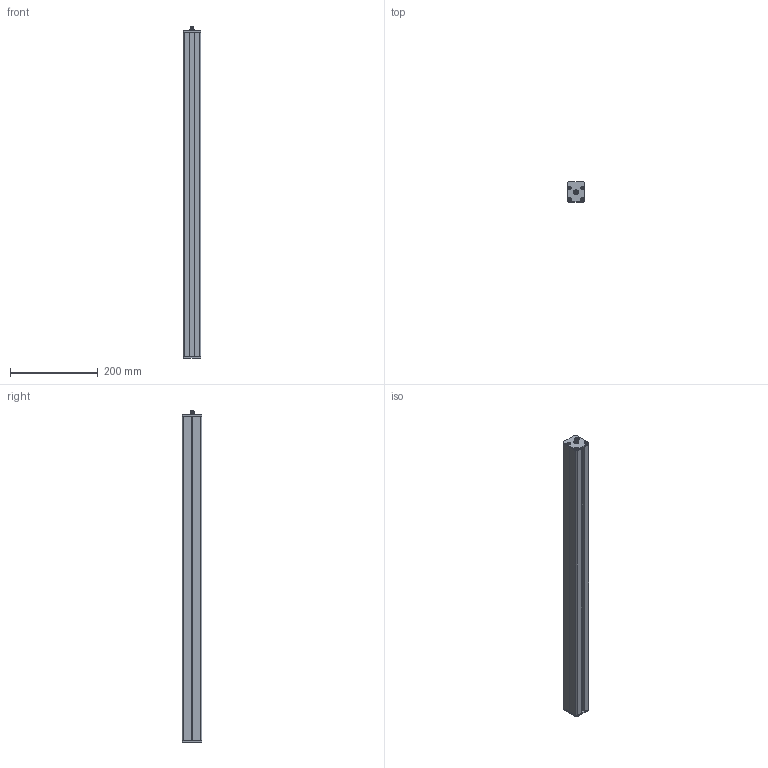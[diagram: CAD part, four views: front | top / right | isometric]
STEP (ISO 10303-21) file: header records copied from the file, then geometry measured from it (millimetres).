
FILE_DESCRIPTION (( 'STEP AP214' ), '1' );
FILE_NAME ('19070-STP01v01 - BL750_Bar light.STEP', '2019-11-05T19:13:08', ( '' ), ( '' ), 'SwSTEP 2.0', 'SolidWorks 2018', '' );
FILE_SCHEMA (( 'AUTOMOTIVE_DESIGN' ));
Length unit declared in the file: millimetre
Products named in the file (7): 19039006-PRT06v01 - FL_Conector para página; 19070003-PRT03v01 - Tapa final conector Bar light; 19070004-PRT03v01 - BL750_Difusor 6 mm; 19070002-PRT01v02 - BL750_Perfil U para construcción; 19070-STP01v01 - BL750_Bar light; socket countersunk head screw_am_B18.3.5M - 4 x 0.7 x 8 Socket FCHS  -- 8N; 19070002-PRT02v01 - Tapa final Bar light
Assembly tree (13 placements, depth 2):
  19070-STP01v01 - BL750_Bar light
    19070002-PRT01v02 - BL750_Perfil U para construcción
    19070004-PRT03v01 - BL750_Difusor 6 mm
    19070002-PRT02v01 - Tapa final Bar light
    19070003-PRT03v01 - Tapa final conector Bar light
    19039006-PRT06v01 - FL_Conector para página
    socket countersunk head screw_am_B18.3.5M - 4 x 0.7 x 8 Socket FCHS  -- 8N  x8
Bounding box: 40 x 45 x 758.44 mm (x, y, z)
Volume: 1135720.9 mm3; surface area: 254455.1 mm2
Topology: 13 solids, 13 shells, 341 faces, 825 edges, 508 vertices
Faces by surface type: plane 187, cylinder 72, cone 51, torus 14, bspline 11, sphere 6
Full cylindrical faces by diameter (mm): 4 x8, 4.5 x8, 7.8 x8
Entity records: 9928 total; most frequent: CARTESIAN_POINT 4775, ORIENTED_EDGE 978, DIRECTION 941, EDGE_CURVE 489, AXIS2_PLACEMENT_3D 349, VERTEX_POINT 326, EDGE_LOOP 249, VECTOR 243
